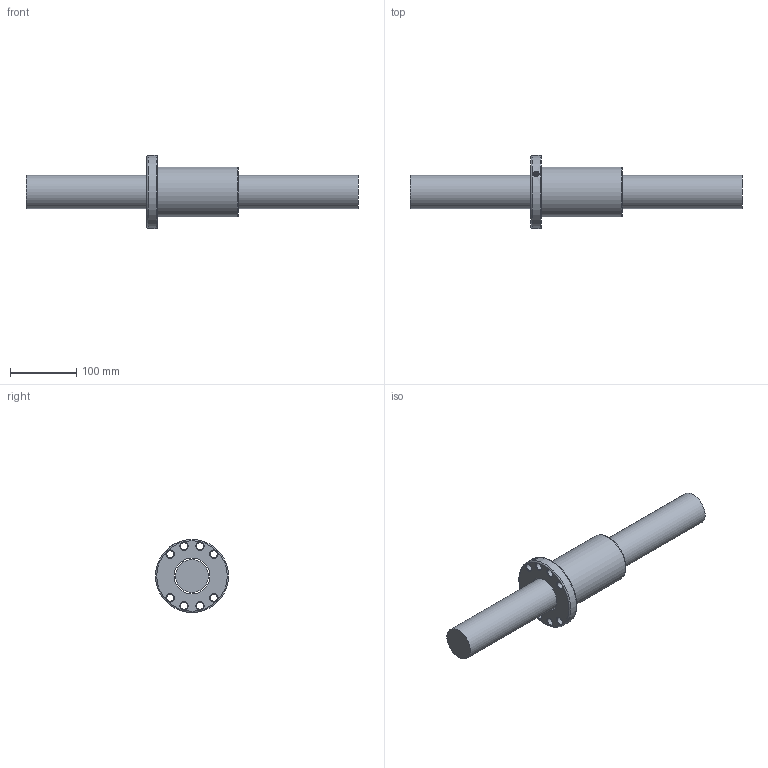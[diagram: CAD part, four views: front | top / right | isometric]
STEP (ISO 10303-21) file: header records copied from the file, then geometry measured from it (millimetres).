
FILE_DESCRIPTION (( 'STEP AP203' ), '1' );
FILE_NAME ('SFNU05020N-4.step', '2024-05-10T07:01:01', ( '' ), ( '' ), 'SwSTEP 2.0', 'SolidWorks 2022', '' );
FILE_SCHEMA (( 'CONFIG_CONTROL_DESIGN' ));
Length unit declared in the file: millimetre
Products named in the file (1): SFNU05020N-4
Bounding box: 500 x 110 x 110 mm (x, y, z)
Volume: 1344157.8 mm3; surface area: 156889.9 mm2
Topology: 2 solids, 2 shells, 51 faces, 127 edges, 81 vertices
Faces by surface type: cylinder 20, cone 17, plane 6, bspline 5, torus 3
Full cylindrical faces by diameter (mm): 4 x1, 7 x6, 11 x8, 50 x1, 53.9 x1, 75 x1, 110 x1
Entity records: 2909 total; most frequent: CARTESIAN_POINT 1988, DIRECTION 176, ORIENTED_EDGE 118, EDGE_LOOP 100, AXIS2_PLACEMENT_3D 86, FACE_OUTER_BOUND 62, EDGE_CURVE 59, VERTEX_POINT 55
